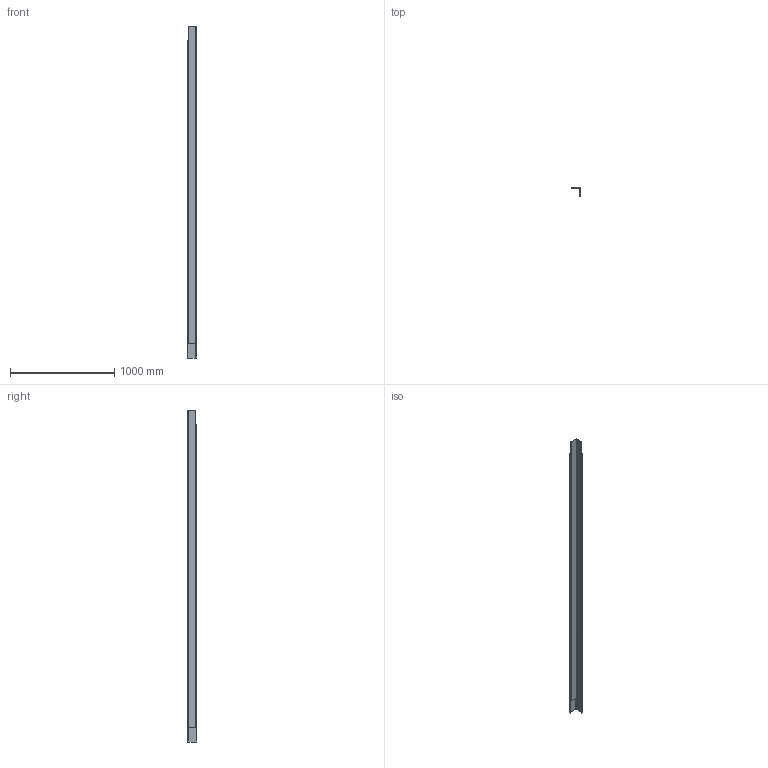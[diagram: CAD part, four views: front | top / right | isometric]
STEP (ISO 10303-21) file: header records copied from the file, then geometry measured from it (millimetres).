
FILE_DESCRIPTION (( 'STEP AP203' ), '1' );
FILE_NAME ('M20G ASSEMBLY.STEP', '2018-06-15T17:57:10', ( 'Michael Moliner' ), ( '' ), 'SwSTEP 2.0', 'SolidWorks 2018', '' );
FILE_SCHEMA (( 'CONFIG_CONTROL_DESIGN' ));
Length unit declared in the file: millimetre
Products named in the file (5): M20G; M20G.1; M20G ASSEMBLY
Assembly tree (2 placements, depth 2):
  M20G ASSEMBLY
    M20G
    M20G.1
  M20G
  M20G.1
Bounding box: 87.31 x 87.31 x 3187.01 mm (x, y, z)
Volume: 534012.4 mm3; surface area: 2108954.8 mm2
Topology: 2 solids, 2 shells, 38 faces, 102 edges, 68 vertices
Faces by surface type: plane 28, cylinder 10
Entity records: 1643 total; most frequent: CARTESIAN_POINT 214, DIRECTION 210, ORIENTED_EDGE 204, EDGE_CURVE 102, VECTOR 82, LINE 82, VERTEX_POINT 68, AXIS2_PLACEMENT_3D 64
